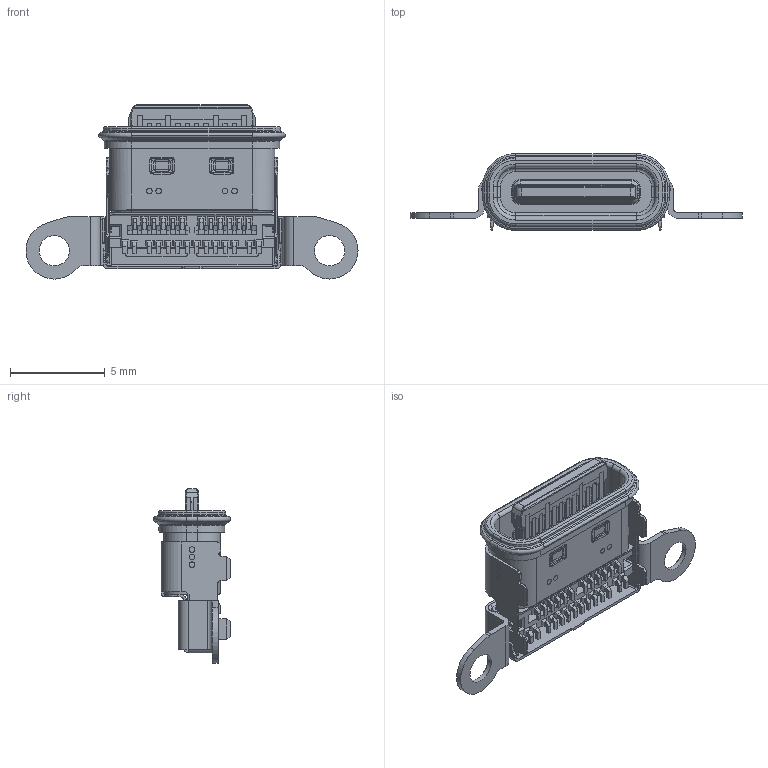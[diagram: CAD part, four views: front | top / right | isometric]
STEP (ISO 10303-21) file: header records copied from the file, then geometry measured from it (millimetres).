
FILE_DESCRIPTION (( 'STEP AP203' ), '1' );
FILE_NAME ('GT-USB-9045C.STEP', '2025-04-08T03:35:38', ( '' ), ( '' ), 'SwSTEP 2.0', 'SolidWorks 2023', '' );
FILE_SCHEMA (( 'CONFIG_CONTROL_DESIGN' ));
Length unit declared in the file: millimetre
Products named in the file (1): GT-USB-9045C
Bounding box: 17.51 x 4.06 x 9.19 mm (x, y, z)
Volume: 122.9 mm3; surface area: 615.8 mm2
Topology: 1 solids, 4 shells, 1996 faces, 5249 edges, 3306 vertices
Faces by surface type: plane 1230, cylinder 509, bspline 139, torus 52, sphere 36, cone 30
Entity records: 65683 total; most frequent: CARTESIAN_POINT 17107, ORIENTED_EDGE 10426, DIRECTION 9584, EDGE_CURVE 5213, VECTOR 3804, LINE 3804, VERTEX_POINT 3306, AXIS2_PLACEMENT_3D 2890
